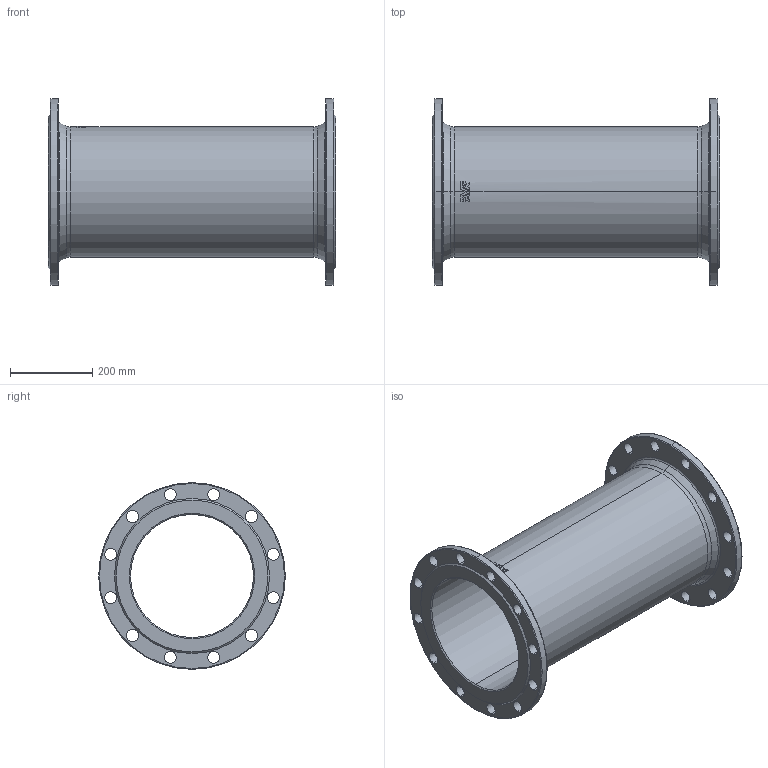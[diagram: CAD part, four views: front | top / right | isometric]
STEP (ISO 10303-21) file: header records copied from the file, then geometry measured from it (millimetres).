
FILE_DESCRIPTION (( 'STEP AP203' ), '1' );
FILE_NAME ('O_712_5010_DN300_1X_REV01.step', '2021-12-03T09:54:13', ( '' ), ( '' ), 'SwSTEP 2.0', 'SolidWorks 2019', '' );
FILE_SCHEMA (( 'CONFIG_CONTROL_DESIGN' ));
Length unit declared in the file: millimetre
Products named in the file (1): O_712_5010_DN300_1X_REV01
Bounding box: 700 x 455 x 455 mm (x, y, z)
Volume: 9379955.1 mm3; surface area: 1709331.1 mm2
Topology: 1 solids, 1 shells, 132 faces, 343 edges, 220 vertices
Faces by surface type: cylinder 61, plane 26, bspline 17, torus 16, cone 12
Entity records: 4890 total; most frequent: CARTESIAN_POINT 1415, DIRECTION 735, ORIENTED_EDGE 686, EDGE_CURVE 343, AXIS2_PLACEMENT_3D 310, VERTEX_POINT 220, CIRCLE 194, EDGE_LOOP 189
